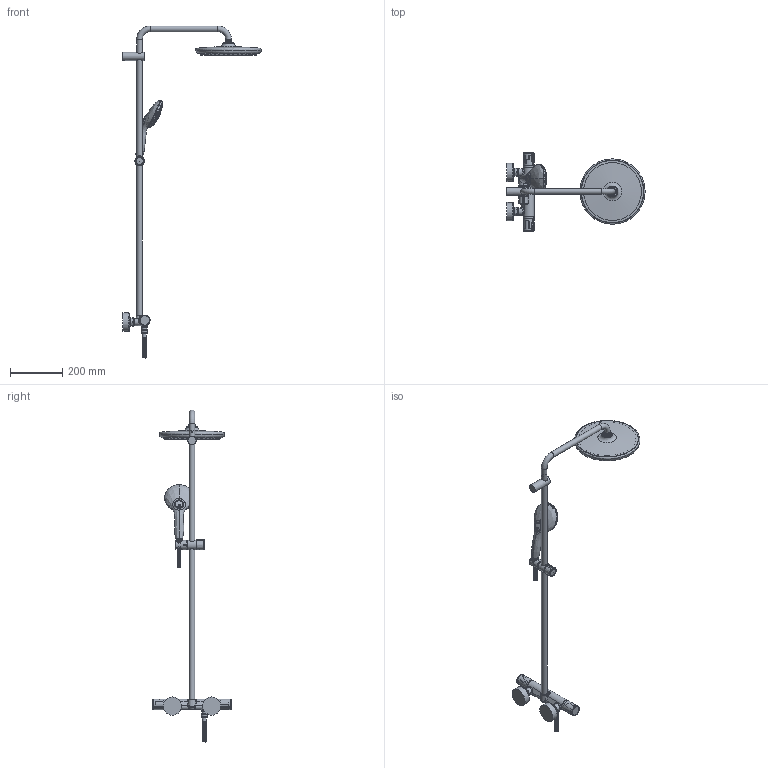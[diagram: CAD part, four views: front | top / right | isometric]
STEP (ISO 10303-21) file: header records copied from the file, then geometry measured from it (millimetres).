
FILE_DESCRIPTION(/* description */ ('Unknown'),/* implementation_level */ '2;1');
FILE_NAME(/* name */ '26990001',/* time_stamp */ '2023-04-19T13:13:36+02:00',/* author */ ('Unknown'),/* organization */ ('GROHE AG'),/* preprocessor_version */ 'ST-DEVELOPER v16.7',/* originating_system */ 'DEX',/* authorisation */ $);
FILE_SCHEMA (('AUTOMOTIVE_DESIGN {1 0 10303 214 3 1 1}'));
Products named in the file (9): 26990001; id11; 081107 GTM1000C Handles Update02; A4285913_DIY_THM_Griff_Body_090831; A4297452_BUMPER + NOZZLES_SOLID; A4298721_HOUSING_SURFACES_PS_SURFACE_V1_HIGHER_SOLID_211103; A4298722_SOFTTOOL DIAL_NEW_POSITION_RADIUS_0,7; rail_sur; shell
Assembly tree (8 placements, depth 2):
  26990001
    id11
    081107 GTM1000C Handles Update02
    A4285913_DIY_THM_Griff_Body_090831
    A4297452_BUMPER + NOZZLES_SOLID
    A4298721_HOUSING_SURFACES_PS_SURFACE_V1_HIGHER_SOLID_211103
    A4298722_SOFTTOOL DIAL_NEW_POSITION_RADIUS_0,7
    rail_sur
    shell
Bounding box: 528.98 x 298.45 x 1269.32 mm (x, y, z)
Surface area: 440866.8 mm2 (no closed solid volume)
Topology: 0 solids, 455 shells, 1642 faces, 6246 edges, 4995 vertices
Faces by surface type: bspline 758, plane 285, cylinder 250, torus 192, cone 96, sphere 61
Full cylindrical faces by diameter (mm): 2.8 x72, 3.7 x1, 3.8 x93, 4.1 x7, 4.134 x1, 10.8 x2, 12.35 x1, 14.7 x2, 15.6 x1, 17.5 x1, 18 x1, 18.631 x1, 19.9 x1, 22 x3, 22.6 x1, 23 x2, 26.44 x2, 27 x2, 27.55 x1, 31.3 x1, 33.4 x2, 36 x2, 37.4 x2, 40 x2, 70 x2, 98.8 x1, 100.004 x1
Entity records: 143011 total; most frequent: CARTESIAN_POINT 99843, ORIENTED_EDGE 7260, EDGE_CURVE 5301, DIRECTION 4590, VERTEX_POINT 4549, B_SPLINE_CURVE_WITH_KNOTS 3581, EDGE_LOOP 2872, FACE_BOUND 2872
